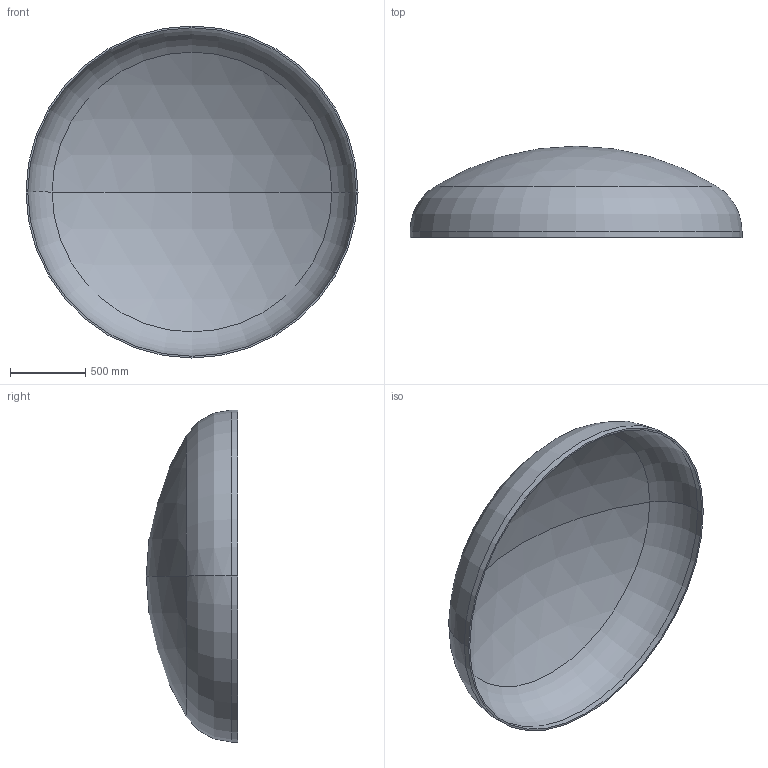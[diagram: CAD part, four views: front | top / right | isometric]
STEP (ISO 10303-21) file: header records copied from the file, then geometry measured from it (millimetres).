
FILE_DESCRIPTION (( 'STEP AP203' ), '1' );
FILE_NAME ('DIN 28013 Korbbogenform_-_Boden DIN 28013 - 2200 x 40 - I - s=12.step', '2016-07-01T14:19:31', ( '' ), ( '' ), 'SwSTEP 2.0', 'SolidWorks 2013', '' );
FILE_SCHEMA (( 'CONFIG_CONTROL_DESIGN' ));
Length unit declared in the file: millimetre
Products named in the file (1): DIN 28013 Korbbogenform_-_Boden DIN 28013 - 2200 x 40 - I - s=12
Bounding box: 2200 x 604.98 x 2200 mm (x, y, z)
Volume: 66068016.8 mm3; surface area: 11094119.1 mm2
Topology: 1 solids, 1 shells, 13 faces, 24 edges, 14 vertices
Faces by surface type: torus 4, cylinder 4, sphere 4, plane 1
Entity records: 407 total; most frequent: DIRECTION 72, CARTESIAN_POINT 52, ORIENTED_EDGE 48, AXIS2_PLACEMENT_3D 34, EDGE_CURVE 24, CIRCLE 20, EDGE_LOOP 14, VERTEX_POINT 14
